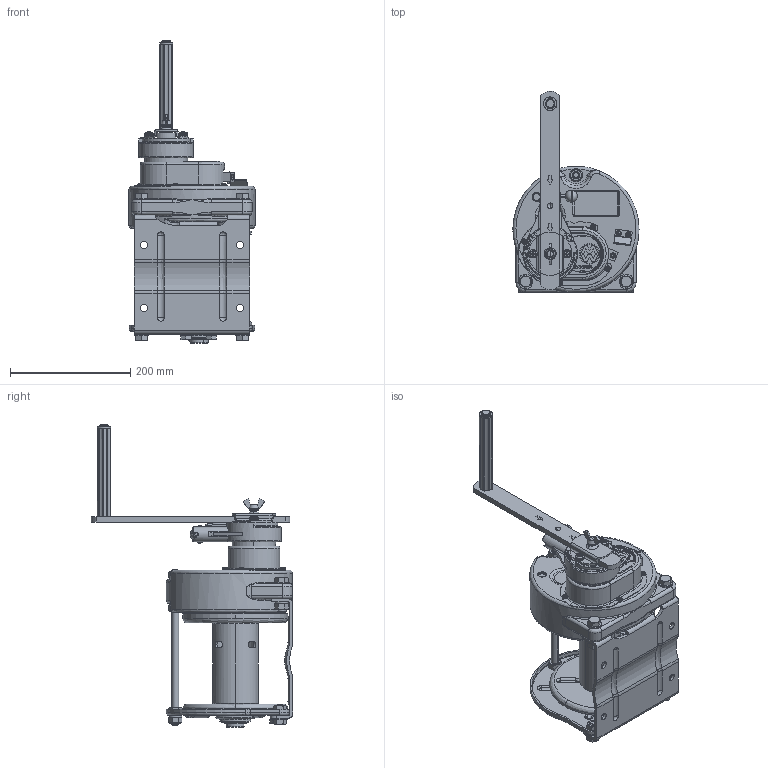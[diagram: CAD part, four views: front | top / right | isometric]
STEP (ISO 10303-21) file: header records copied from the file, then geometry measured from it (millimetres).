
FILE_DESCRIPTION( (''), '2;1');
FILE_NAME ('MR-5.stp','2023-12-22T17:10:51',(''),(''),'spGate 19.8.2 (****-****-****-****)','','');
FILE_SCHEMA (('AUTOMOTIVE_DESIGN'));
Length unit declared in the file: millimetre
Products named in the file (3): Assembly; MR-5-prt0; MR-5-prt1
Assembly tree (2 placements, depth 2):
  Assembly
    MR-5-prt0
    MR-5-prt1
Bounding box: 209.96 x 335.43 x 503.8 mm (x, y, z)
Volume: 4093728.4 mm3; surface area: 676571.2 mm2
Topology: 2 solids, 2 shells, 3000 faces, 7684 edges, 4843 vertices
Faces by surface type: plane 1484, cylinder 939, bspline 470, sphere 107
Entity records: 163659 total; most frequent: CARTESIAN_POINT 30941, ORIENTED_EDGE 15258, DIRECTION 14898, COLOUR_RGB 10631, PRESENTATION_STYLE_ASSIGNMENT 10631, STYLED_ITEM 10631, EDGE_CURVE 7629, DRAUGHTING_PRE_DEFINED_CURVE_FONT 7629
